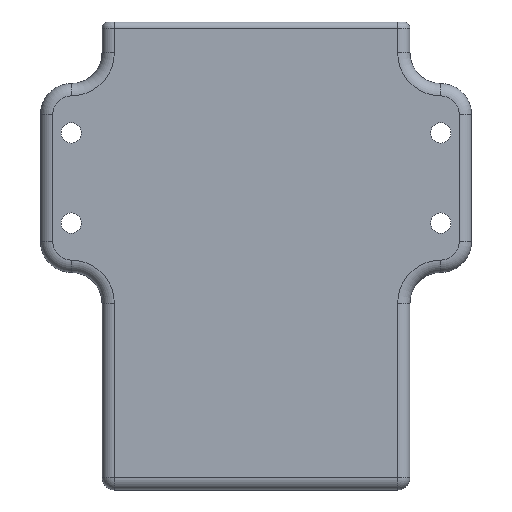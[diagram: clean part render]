
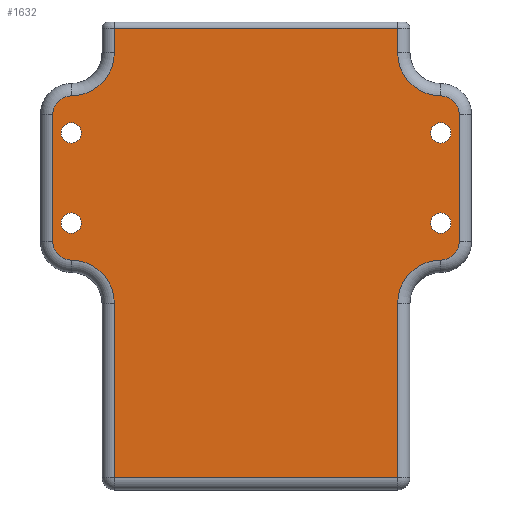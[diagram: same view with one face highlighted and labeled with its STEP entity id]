
A CAD part, front view. The second image highlights one B-rep face of the part: STEP entity #1632.
In plain terms, the highlighted planar face has unit normal (0, -1, 0).
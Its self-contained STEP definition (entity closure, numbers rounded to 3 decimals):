
#32=FACE_BOUND('',#532,.T.);
#33=FACE_BOUND('',#533,.T.);
#34=FACE_BOUND('',#534,.T.);
#35=FACE_BOUND('',#535,.T.);
#62=PLANE('',#1861);
#88=LINE('',#2574,#194);
#136=LINE('',#2757,#242);
#137=LINE('',#2761,#243);
#139=LINE('',#2779,#245);
#140=LINE('',#2792,#246);
#141=LINE('',#2797,#247);
#143=LINE('',#2815,#249);
#145=LINE('',#2830,#251);
#194=VECTOR('',#1968,10.);
#242=VECTOR('',#2164,10.);
#243=VECTOR('',#2169,10.);
#245=VECTOR('',#2191,10.);
#246=VECTOR('',#2210,10.);
#247=VECTOR('',#2215,10.);
#249=VECTOR('',#2237,10.);
#251=VECTOR('',#2257,10.);
#422=FACE_OUTER_BOUND('',#531,.T.);
#531=EDGE_LOOP('',(#1441,#1442,#1443,#1444,#1445,#1446,#1447,#1448,#1449,
#1450,#1451,#1452,#1453,#1454,#1455,#1456));
#532=EDGE_LOOP('',(#1457));
#533=EDGE_LOOP('',(#1458));
#534=EDGE_LOOP('',(#1459));
#535=EDGE_LOOP('',(#1460));
#620=CIRCLE('',#1776,7.);
#623=CIRCLE('',#1780,3.);
#627=CIRCLE('',#1786,3.);
#630=CIRCLE('',#1790,7.);
#633=CIRCLE('',#1796,7.);
#636=CIRCLE('',#1800,3.);
#640=CIRCLE('',#1806,3.);
#643=CIRCLE('',#1810,7.);
#663=CIRCLE('',#1848,1.65);
#665=CIRCLE('',#1852,1.65);
#667=CIRCLE('',#1856,1.65);
#669=CIRCLE('',#1860,1.65);
#701=VERTEX_POINT('',#2564);
#703=VERTEX_POINT('',#2570);
#751=VERTEX_POINT('',#2729);
#753=VERTEX_POINT('',#2735);
#757=VERTEX_POINT('',#2759);
#758=VERTEX_POINT('',#2763);
#760=VERTEX_POINT('',#2769);
#762=VERTEX_POINT('',#2775);
#764=VERTEX_POINT('',#2781);
#766=VERTEX_POINT('',#2787);
#768=VERTEX_POINT('',#2795);
#770=VERTEX_POINT('',#2801);
#772=VERTEX_POINT('',#2807);
#774=VERTEX_POINT('',#2813);
#776=VERTEX_POINT('',#2819);
#778=VERTEX_POINT('',#2825);
#803=VERTEX_POINT('',#2931);
#805=VERTEX_POINT('',#2939);
#807=VERTEX_POINT('',#2947);
#809=VERTEX_POINT('',#2955);
#855=EDGE_CURVE('',#701,#703,#88,.T.);
#944=EDGE_CURVE('',#751,#753,#136,.T.);
#946=EDGE_CURVE('',#753,#757,#137,.T.);
#949=EDGE_CURVE('',#757,#758,#620,.T.);
#952=EDGE_CURVE('',#758,#760,#623,.T.);
#955=EDGE_CURVE('',#760,#762,#139,.T.);
#958=EDGE_CURVE('',#762,#764,#627,.T.);
#961=EDGE_CURVE('',#764,#766,#630,.T.);
#962=EDGE_CURVE('',#766,#701,#140,.T.);
#964=EDGE_CURVE('',#768,#751,#141,.T.);
#967=EDGE_CURVE('',#770,#768,#633,.T.);
#970=EDGE_CURVE('',#772,#770,#636,.T.);
#973=EDGE_CURVE('',#774,#772,#143,.T.);
#976=EDGE_CURVE('',#776,#774,#640,.T.);
#979=EDGE_CURVE('',#778,#776,#643,.T.);
#981=EDGE_CURVE('',#703,#778,#145,.T.);
#1022=EDGE_CURVE('',#803,#803,#663,.T.);
#1026=EDGE_CURVE('',#805,#805,#665,.T.);
#1030=EDGE_CURVE('',#807,#807,#667,.T.);
#1034=EDGE_CURVE('',#809,#809,#669,.T.);
#1441=ORIENTED_EDGE('',*,*,#855,.F.);
#1442=ORIENTED_EDGE('',*,*,#962,.F.);
#1443=ORIENTED_EDGE('',*,*,#961,.F.);
#1444=ORIENTED_EDGE('',*,*,#958,.F.);
#1445=ORIENTED_EDGE('',*,*,#955,.F.);
#1446=ORIENTED_EDGE('',*,*,#952,.F.);
#1447=ORIENTED_EDGE('',*,*,#949,.F.);
#1448=ORIENTED_EDGE('',*,*,#946,.F.);
#1449=ORIENTED_EDGE('',*,*,#944,.F.);
#1450=ORIENTED_EDGE('',*,*,#964,.F.);
#1451=ORIENTED_EDGE('',*,*,#967,.F.);
#1452=ORIENTED_EDGE('',*,*,#970,.F.);
#1453=ORIENTED_EDGE('',*,*,#973,.F.);
#1454=ORIENTED_EDGE('',*,*,#976,.F.);
#1455=ORIENTED_EDGE('',*,*,#979,.F.);
#1456=ORIENTED_EDGE('',*,*,#981,.F.);
#1457=ORIENTED_EDGE('',*,*,#1026,.T.);
#1458=ORIENTED_EDGE('',*,*,#1022,.T.);
#1459=ORIENTED_EDGE('',*,*,#1034,.T.);
#1460=ORIENTED_EDGE('',*,*,#1030,.T.);
#1632=ADVANCED_FACE('',(#422,#32,#33,#34,#35),#62,.T.);
#1776=AXIS2_PLACEMENT_3D('',#2767,#2176,#2177);
#1780=AXIS2_PLACEMENT_3D('',#2773,#2184,#2185);
#1786=AXIS2_PLACEMENT_3D('',#2785,#2198,#2199);
#1790=AXIS2_PLACEMENT_3D('',#2790,#2206,#2207);
#1796=AXIS2_PLACEMENT_3D('',#2803,#2221,#2222);
#1800=AXIS2_PLACEMENT_3D('',#2809,#2229,#2230);
#1806=AXIS2_PLACEMENT_3D('',#2821,#2243,#2244);
#1810=AXIS2_PLACEMENT_3D('',#2827,#2251,#2252);
#1848=AXIS2_PLACEMENT_3D('',#2933,#2346,#2347);
#1852=AXIS2_PLACEMENT_3D('',#2941,#2356,#2357);
#1856=AXIS2_PLACEMENT_3D('',#2949,#2366,#2367);
#1860=AXIS2_PLACEMENT_3D('',#2957,#2376,#2377);
#1861=AXIS2_PLACEMENT_3D('',#2958,#2378,#2379);
#1968=DIRECTION('',(1.,0.,0.));
#2164=DIRECTION('',(-1.,0.,0.));
#2169=DIRECTION('',(0.,0.,1.));
#2176=DIRECTION('center_axis',(0.,-1.,0.));
#2177=DIRECTION('ref_axis',(0.707,0.,0.707));
#2184=DIRECTION('center_axis',(0.,1.,0.));
#2185=DIRECTION('ref_axis',(-0.707,0.,-0.707));
#2191=DIRECTION('',(0.,0.,1.));
#2198=DIRECTION('center_axis',(0.,1.,0.));
#2199=DIRECTION('ref_axis',(-0.707,0.,0.707));
#2206=DIRECTION('center_axis',(0.,-1.,0.));
#2207=DIRECTION('ref_axis',(0.707,0.,-0.707));
#2210=DIRECTION('',(0.,0.,1.));
#2215=DIRECTION('',(0.,0.,-1.));
#2221=DIRECTION('center_axis',(0.,-1.,0.));
#2222=DIRECTION('ref_axis',(-0.707,0.,0.707));
#2229=DIRECTION('center_axis',(0.,1.,0.));
#2230=DIRECTION('ref_axis',(0.707,0.,-0.707));
#2237=DIRECTION('',(0.,0.,-1.));
#2243=DIRECTION('center_axis',(0.,1.,0.));
#2244=DIRECTION('ref_axis',(0.707,0.,0.707));
#2251=DIRECTION('center_axis',(0.,-1.,0.));
#2252=DIRECTION('ref_axis',(-0.707,0.,-0.707));
#2257=DIRECTION('',(0.,0.,-1.));
#2346=DIRECTION('center_axis',(0.,1.,0.));
#2347=DIRECTION('ref_axis',(1.,0.,0.));
#2356=DIRECTION('center_axis',(0.,1.,0.));
#2357=DIRECTION('ref_axis',(1.,0.,0.));
#2366=DIRECTION('center_axis',(0.,1.,0.));
#2367=DIRECTION('ref_axis',(1.,0.,0.));
#2376=DIRECTION('center_axis',(0.,1.,0.));
#2377=DIRECTION('ref_axis',(1.,0.,0.));
#2378=DIRECTION('center_axis',(0.,-1.,0.));
#2379=DIRECTION('ref_axis',(1.,0.,0.));
#2564=CARTESIAN_POINT('',(-23.,-25.,31.2));
#2570=CARTESIAN_POINT('',(23.,-25.,31.2));
#2574=CARTESIAN_POINT('',(-12.5,-25.,31.2));
#2729=CARTESIAN_POINT('',(23.,-25.,-41.8));
#2735=CARTESIAN_POINT('',(-23.,-25.,-41.8));
#2757=CARTESIAN_POINT('',(-12.5,-25.,-41.8));
#2759=CARTESIAN_POINT('',(-23.,-25.,-13.467));
#2761=CARTESIAN_POINT('',(-23.,-25.,-43.8));
#2763=CARTESIAN_POINT('',(-30.,-25.,-6.467));
#2767=CARTESIAN_POINT('Origin',(-30.,-25.,-13.467));
#2769=CARTESIAN_POINT('',(-33.,-25.,-3.467));
#2773=CARTESIAN_POINT('Origin',(-30.,-25.,-3.467));
#2775=CARTESIAN_POINT('',(-33.,-25.,17.2));
#2779=CARTESIAN_POINT('',(-33.,-25.,-26.133));
#2781=CARTESIAN_POINT('',(-30.,-25.,20.2));
#2785=CARTESIAN_POINT('Origin',(-30.,-25.,17.2));
#2787=CARTESIAN_POINT('',(-23.,-25.,27.2));
#2790=CARTESIAN_POINT('Origin',(-30.,-25.,27.2));
#2792=CARTESIAN_POINT('',(-23.,-25.,-43.8));
#2795=CARTESIAN_POINT('',(23.,-25.,-13.467));
#2797=CARTESIAN_POINT('',(23.,-25.,-43.8));
#2801=CARTESIAN_POINT('',(30.,-25.,-6.467));
#2803=CARTESIAN_POINT('Origin',(30.,-25.,-13.467));
#2807=CARTESIAN_POINT('',(33.,-25.,-3.467));
#2809=CARTESIAN_POINT('Origin',(30.,-25.,-3.467));
#2813=CARTESIAN_POINT('',(33.,-25.,17.2));
#2815=CARTESIAN_POINT('',(33.,-25.,-10.8));
#2819=CARTESIAN_POINT('',(30.,-25.,20.2));
#2821=CARTESIAN_POINT('Origin',(30.,-25.,17.2));
#2825=CARTESIAN_POINT('',(23.,-25.,27.2));
#2827=CARTESIAN_POINT('Origin',(30.,-25.,27.2));
#2830=CARTESIAN_POINT('',(23.,-25.,-43.8));
#2931=CARTESIAN_POINT('',(-31.65,-25.,14.2));
#2933=CARTESIAN_POINT('Origin',(-30.,-25.,14.2));
#2939=CARTESIAN_POINT('',(-31.65,-25.,-0.467));
#2941=CARTESIAN_POINT('Origin',(-30.,-25.,-0.467));
#2947=CARTESIAN_POINT('',(28.35,-25.,14.2));
#2949=CARTESIAN_POINT('Origin',(30.,-25.,14.2));
#2955=CARTESIAN_POINT('',(28.35,-25.,-0.467));
#2957=CARTESIAN_POINT('Origin',(30.,-25.,-0.467));
#2958=CARTESIAN_POINT('Origin',(-25.,-25.,-43.8));
